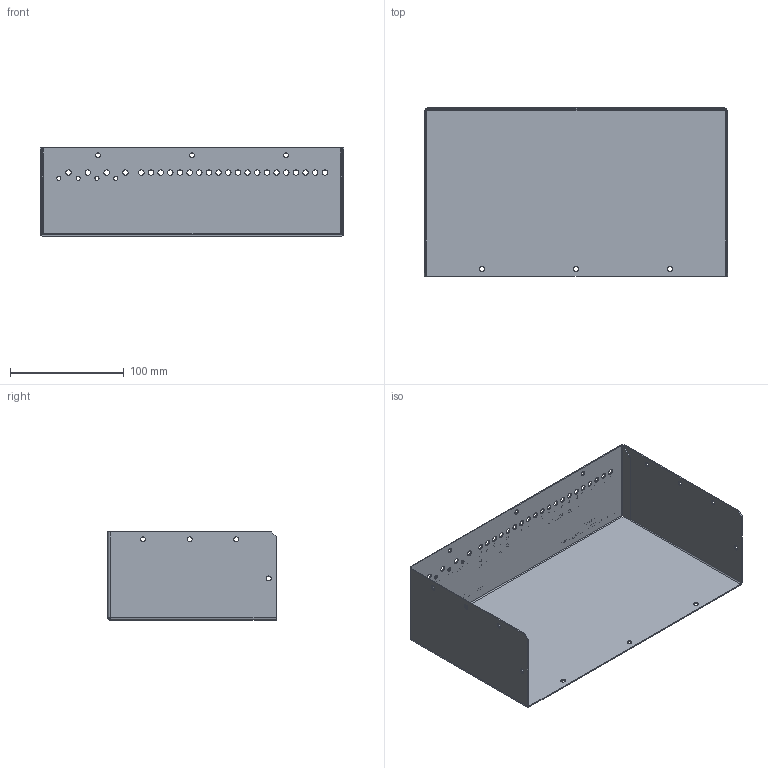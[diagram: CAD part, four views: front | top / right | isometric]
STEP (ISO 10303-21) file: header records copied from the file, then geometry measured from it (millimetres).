
FILE_DESCRIPTION(/* description */ ('STEP AP242 Edition 2','CAx-IF Rec.Pracs.---Representation and Presentation of Product Manufacturing Information (PMI)---4.0---2014-10-13','CAx-IF Rec.Pracs.---3D Tessellated Geometry---0.4---2014-09-14','2;1','CAx-IF Rec.Pracs.---User Defined Attributes---1.5---2016-08-15'),/* implementation_level */ '2;1');
FILE_NAME(/* name */ 'New Telemetry Box Cover Design - Part 1',/* time_stamp */ '2026-07-15T01:19:46Z',/* author */ (''),/* organization */ (''),/* preprocessor_version */ 'ST-DEVELOPER v20',/* originating_system */ 'ONSHAPE BY PTC INC, 1.217',/* authorisation */ ' ');
FILE_SCHEMA (('AP242_MANAGED_MODEL_BASED_3D_ENGINEERING_MIM_LF { 1 0 10303 442 3 1 4 }'));
Length unit declared in the file: metre
Products named in the file (1): Part 1
Bounding box: 267 x 147.99 x 77.47 mm (x, y, z)
Volume: 83608.6 mm3; surface area: 166528.3 mm2
Topology: 1 solids, 1 shells, 275 faces, 2538 edges, 2446 vertices
Faces by surface type: plane 223, cylinder 52
Full cylindrical faces by diameter (mm): 3.556 x4, 4.318 x14, 4.8 x4, 4.801 x20
Entity records: 26510 total; most frequent: CARTESIAN_POINT 7308, ORIENTED_EDGE 4992, EDGE_CURVE 2496, VERTEX_POINT 2446, DIRECTION 2352, LINE 1102, VECTOR 1102, B_SPLINE_CURVE_WITH_KNOTS 1045
